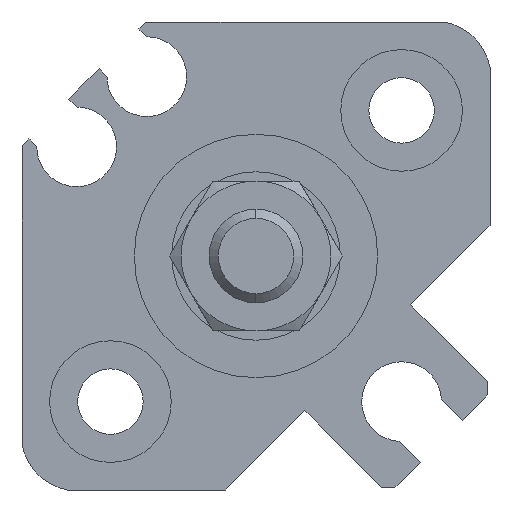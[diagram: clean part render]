
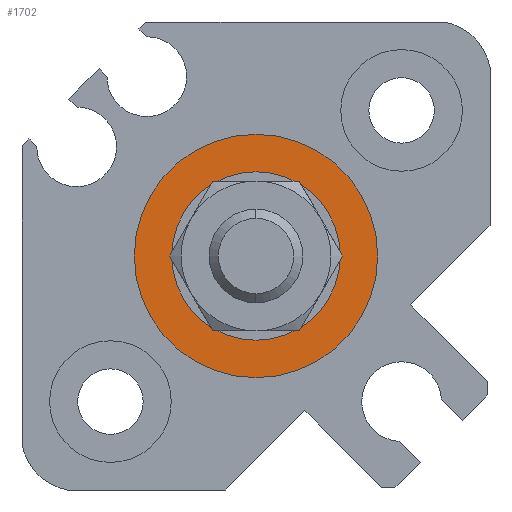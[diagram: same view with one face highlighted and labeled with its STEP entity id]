
A CAD part, left-side view. The second image highlights one B-rep face of the part: STEP entity #1702.
In plain terms, the highlighted planar face has unit normal (-1, 0, 0).
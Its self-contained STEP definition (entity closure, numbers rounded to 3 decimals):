
#149 = FACE_BOUND ( 'NONE', #1685, .T. ) ;
#163 = ORIENTED_EDGE ( 'NONE', *, *, #2073, .T. ) ;
#350 = CIRCLE ( 'NONE', #2138, 4.5 ) ;
#412 = VERTEX_POINT ( 'NONE', #4538 ) ;
#558 = EDGE_CURVE ( 'NONE', #1247, #3574, #2174, .T. ) ;
#565 = DIRECTION ( 'NONE',  ( 1., 0., 0. ) ) ;
#619 = CARTESIAN_POINT ( 'NONE',  ( 0.9, 0., 0. ) ) ;
#642 = DIRECTION ( 'NONE',  ( 0., 0., -1. ) ) ;
#902 = PLANE ( 'NONE',  #3824 ) ;
#1122 = DIRECTION ( 'NONE',  ( 0., 0., -1. ) ) ;
#1144 = DIRECTION ( 'NONE',  ( 1., 0., 0. ) ) ;
#1187 = CARTESIAN_POINT ( 'NONE',  ( 0.9, 0., -6.5 ) ) ;
#1207 = CARTESIAN_POINT ( 'NONE',  ( 0.9, 0., 0. ) ) ;
#1247 = VERTEX_POINT ( 'NONE', #1187 ) ;
#1685 = EDGE_LOOP ( 'NONE', ( #163, #3178 ) ) ;
#1702 = ADVANCED_FACE ( 'NONE', ( #3192, #149 ), #902, .F. ) ;
#1716 = CARTESIAN_POINT ( 'NONE',  ( 0.9, 0., 0. ) ) ;
#1825 = VERTEX_POINT ( 'NONE', #2147 ) ;
#1942 = CARTESIAN_POINT ( 'NONE',  ( 0.9, 0., 0. ) ) ;
#2016 = DIRECTION ( 'NONE',  ( 1., 0., 0. ) ) ;
#2073 = EDGE_CURVE ( 'NONE', #1825, #412, #350, .T. ) ;
#2138 = AXIS2_PLACEMENT_3D ( 'NONE', #1716, #3235, #4440 ) ;
#2147 = CARTESIAN_POINT ( 'NONE',  ( 0.9, 0., 4.5 ) ) ;
#2174 = CIRCLE ( 'NONE', #2814, 6.5 ) ;
#2496 = CIRCLE ( 'NONE', #3457, 4.5 ) ;
#2701 = DIRECTION ( 'NONE',  ( 0., 0., -1. ) ) ;
#2807 = EDGE_CURVE ( 'NONE', #412, #1825, #2496, .T. ) ;
#2814 = AXIS2_PLACEMENT_3D ( 'NONE', #4611, #1144, #1122 ) ;
#2853 = CARTESIAN_POINT ( 'NONE',  ( 0.9, 0., 6.5 ) ) ;
#2907 = ORIENTED_EDGE ( 'NONE', *, *, #3938, .F. ) ;
#3117 = CIRCLE ( 'NONE', #4885, 6.5 ) ;
#3178 = ORIENTED_EDGE ( 'NONE', *, *, #2807, .T. ) ;
#3192 = FACE_OUTER_BOUND ( 'NONE', #3203, .T. ) ;
#3203 = EDGE_LOOP ( 'NONE', ( #2907, #3335 ) ) ;
#3235 = DIRECTION ( 'NONE',  ( 1., 0., 0. ) ) ;
#3240 = DIRECTION ( 'NONE',  ( 0., 1., 0. ) ) ;
#3335 = ORIENTED_EDGE ( 'NONE', *, *, #558, .F. ) ;
#3457 = AXIS2_PLACEMENT_3D ( 'NONE', #1942, #2016, #2701 ) ;
#3540 = DIRECTION ( 'NONE',  ( 1., 0., 0. ) ) ;
#3574 = VERTEX_POINT ( 'NONE', #2853 ) ;
#3824 = AXIS2_PLACEMENT_3D ( 'NONE', #1207, #3540, #3240 ) ;
#3938 = EDGE_CURVE ( 'NONE', #3574, #1247, #3117, .T. ) ;
#4440 = DIRECTION ( 'NONE',  ( 0., 0., -1. ) ) ;
#4538 = CARTESIAN_POINT ( 'NONE',  ( 0.9, 0., -4.5 ) ) ;
#4611 = CARTESIAN_POINT ( 'NONE',  ( 0.9, 0., 0. ) ) ;
#4885 = AXIS2_PLACEMENT_3D ( 'NONE', #619, #565, #642 ) ;
